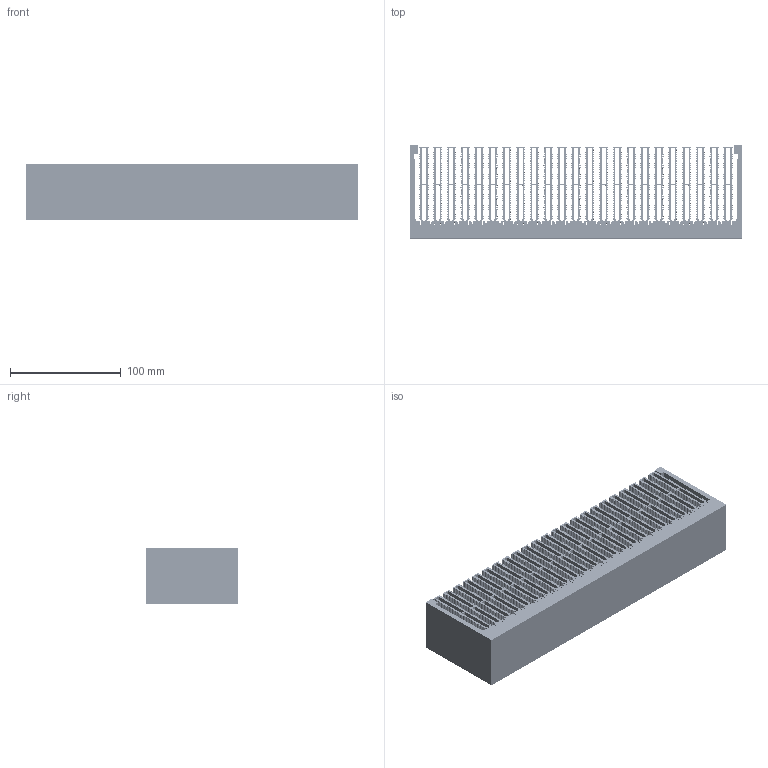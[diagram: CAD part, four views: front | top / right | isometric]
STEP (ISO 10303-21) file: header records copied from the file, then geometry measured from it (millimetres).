
FILE_DESCRIPTION (( 'STEP AP214' ), '1' );
FILE_NAME ('PR254_komplett.STEP', '2008-02-26T08:56:48', ( 'Alutronic' ), ( 'Alutronic' ), 'SwSTEP 2.0', 'SolidWorks 2007', '' );
FILE_SCHEMA (( 'AUTOMOTIVE_DESIGN' ));
Length unit declared in the file: millimetre
Products named in the file (3): Grundkörper_PR254_Standard; PR254_komplett; Rippe_PR254_Standard
Assembly tree (24 placements, depth 2):
  PR254_komplett
    Rippe_PR254_Standard  x23
    Grundkörper_PR254_Standard
Bounding box: 300 x 84 x 50 mm (x, y, z)
Volume: 556130.4 mm3; surface area: 513885.4 mm2
Topology: 24 solids, 24 shells, 6083 faces, 18105 edges, 12070 vertices
Faces by surface type: cylinder 5060, plane 1023
Entity records: 14781 total; most frequent: DIRECTION 2627, CARTESIAN_POINT 2581, ORIENTED_EDGE 2550, EDGE_CURVE 1275, AXIS2_PLACEMENT_3D 896, VERTEX_POINT 850, VECTOR 835, LINE 835
